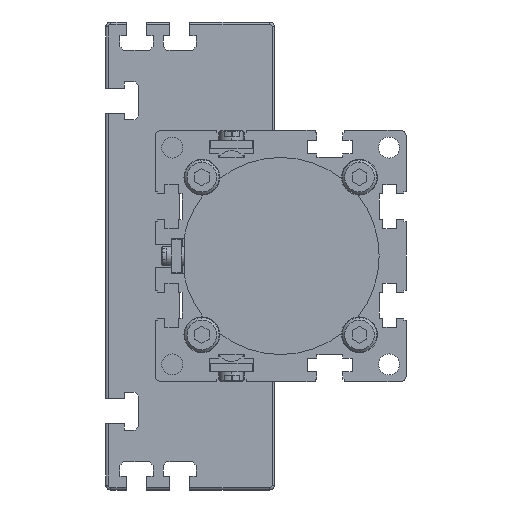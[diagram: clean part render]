
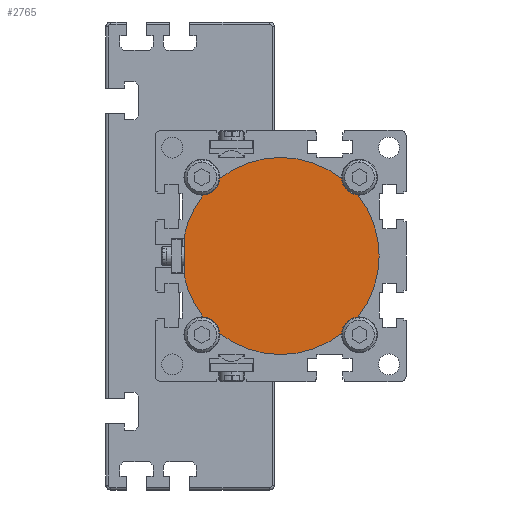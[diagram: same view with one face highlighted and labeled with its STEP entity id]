
A CAD part, left-side view. The second image highlights one B-rep face of the part: STEP entity #2765.
In plain terms, the highlighted planar face has unit normal (-1, 0, 0) as drawn and (1, 0, 0) by its records, which use the part's own axes.
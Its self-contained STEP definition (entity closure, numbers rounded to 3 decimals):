
#273 = CIRCLE ( 'NONE', #13367, 7.25 ) ;
#578 = DIRECTION ( 'NONE',  ( 0., 0., -1. ) ) ;
#650 = VERTEX_POINT ( 'NONE', #8658 ) ;
#839 = AXIS2_PLACEMENT_3D ( 'NONE', #6571, #23521, #9009 ) ;
#944 = EDGE_CURVE ( 'NONE', #3483, #17240, #27229, .T. ) ;
#1182 = DIRECTION ( 'NONE',  ( 0., 0., -1. ) ) ;
#1319 = VERTEX_POINT ( 'NONE', #22869 ) ;
#1420 = LINE ( 'NONE', #29598, #26460 ) ;
#1443 = ORIENTED_EDGE ( 'NONE', *, *, #27057, .T. ) ;
#1707 = CARTESIAN_POINT ( 'NONE',  ( 1., 0., 0. ) ) ;
#1954 = CARTESIAN_POINT ( 'NONE',  ( 1., -32., 32. ) ) ;
#2393 = EDGE_CURVE ( 'NONE', #22933, #1319, #2466, .T. ) ;
#2466 = CIRCLE ( 'NONE', #9801, 40. ) ;
#2765 = ADVANCED_FACE ( 'NONE', ( #23297 ), #10213, .T. ) ;
#3483 = VERTEX_POINT ( 'NONE', #21658 ) ;
#4201 = CARTESIAN_POINT ( 'NONE',  ( 1., 31.404, 24.775 ) ) ;
#4318 = DIRECTION ( 'NONE',  ( 0., 0., -1. ) ) ;
#4421 = DIRECTION ( 'NONE',  ( 0., 0., -1. ) ) ;
#4719 = AXIS2_PLACEMENT_3D ( 'NONE', #1707, #30752, #16700 ) ;
#5562 = CARTESIAN_POINT ( 'NONE',  ( 1., 39., -7.25 ) ) ;
#5662 = VERTEX_POINT ( 'NONE', #27048 ) ;
#5719 = CIRCLE ( 'NONE', #13713, 40. ) ;
#5746 = DIRECTION ( 'NONE',  ( 1., 0., 0. ) ) ;
#6196 = CARTESIAN_POINT ( 'NONE',  ( 1., 39.337, -7.25 ) ) ;
#6324 = VECTOR ( 'NONE', #578, 1000. ) ;
#6571 = CARTESIAN_POINT ( 'NONE',  ( 1., 32., -32. ) ) ;
#6630 = VECTOR ( 'NONE', #10153, 1000. ) ;
#6747 = VERTEX_POINT ( 'NONE', #4201 ) ;
#7125 = DIRECTION ( 'NONE',  ( 1., 0., 0. ) ) ;
#7237 = AXIS2_PLACEMENT_3D ( 'NONE', #10127, #27097, #12573 ) ;
#7377 = LINE ( 'NONE', #12608, #6630 ) ;
#7779 = CARTESIAN_POINT ( 'NONE',  ( 1., -0.331, -87.778 ) ) ;
#7879 = DIRECTION ( 'NONE',  ( 1., 0., 0. ) ) ;
#8129 = CARTESIAN_POINT ( 'NONE',  ( 1., -32., -32. ) ) ;
#8658 = CARTESIAN_POINT ( 'NONE',  ( 1., 24.775, 31.404 ) ) ;
#8706 = EDGE_CURVE ( 'NONE', #21732, #31338, #11996, .T. ) ;
#9009 = DIRECTION ( 'NONE',  ( 0., 0., -1. ) ) ;
#9801 = AXIS2_PLACEMENT_3D ( 'NONE', #30182, #21248, #4318 ) ;
#9978 = VERTEX_POINT ( 'NONE', #6196 ) ;
#10127 = CARTESIAN_POINT ( 'NONE',  ( 1., 0., 0. ) ) ;
#10153 = DIRECTION ( 'NONE',  ( 0., -1., 0. ) ) ;
#10213 = PLANE ( 'NONE',  #27095 ) ;
#10327 = ORIENTED_EDGE ( 'NONE', *, *, #2393, .T. ) ;
#10370 = CIRCLE ( 'NONE', #21607, 7.25 ) ;
#10542 = DIRECTION ( 'NONE',  ( 0., 0., -1. ) ) ;
#11207 = CIRCLE ( 'NONE', #19003, 40. ) ;
#11365 = EDGE_CURVE ( 'NONE', #9978, #31338, #7377, .T. ) ;
#11996 = LINE ( 'NONE', #15090, #6324 ) ;
#12089 = EDGE_CURVE ( 'NONE', #22933, #18315, #10370, .T. ) ;
#12185 = ORIENTED_EDGE ( 'NONE', *, *, #21007, .F. ) ;
#12573 = DIRECTION ( 'NONE',  ( 0., 0., -1. ) ) ;
#12591 = CIRCLE ( 'NONE', #839, 7.25 ) ;
#12608 = CARTESIAN_POINT ( 'NONE',  ( 1., -0.331, -7.25 ) ) ;
#13228 = ORIENTED_EDGE ( 'NONE', *, *, #12089, .F. ) ;
#13331 = CIRCLE ( 'NONE', #7237, 40. ) ;
#13367 = AXIS2_PLACEMENT_3D ( 'NONE', #21628, #7125, #24094 ) ;
#13394 = EDGE_CURVE ( 'NONE', #31216, #9978, #5719, .T. ) ;
#13713 = AXIS2_PLACEMENT_3D ( 'NONE', #28313, #13782, #30742 ) ;
#13782 = DIRECTION ( 'NONE',  ( 1., 0., 0. ) ) ;
#14174 = CARTESIAN_POINT ( 'NONE',  ( 1., -24.775, 31.404 ) ) ;
#14335 = CARTESIAN_POINT ( 'NONE',  ( 1., 24.775, -31.404 ) ) ;
#14780 = ORIENTED_EDGE ( 'NONE', *, *, #20824, .F. ) ;
#14930 = ORIENTED_EDGE ( 'NONE', *, *, #8706, .F. ) ;
#15090 = CARTESIAN_POINT ( 'NONE',  ( 1., 39., -87.778 ) ) ;
#15703 = DIRECTION ( 'NONE',  ( 1., 0., 0. ) ) ;
#16434 = ORIENTED_EDGE ( 'NONE', *, *, #31256, .T. ) ;
#16700 = DIRECTION ( 'NONE',  ( 0., 0., -1. ) ) ;
#17240 = VERTEX_POINT ( 'NONE', #14335 ) ;
#17932 = AXIS2_PLACEMENT_3D ( 'NONE', #8129, #25078, #10542 ) ;
#18315 = VERTEX_POINT ( 'NONE', #14174 ) ;
#18932 = DIRECTION ( 'NONE',  ( 1., 0., 0. ) ) ;
#19003 = AXIS2_PLACEMENT_3D ( 'NONE', #20285, #5746, #22704 ) ;
#20285 = CARTESIAN_POINT ( 'NONE',  ( 1., 0., 0. ) ) ;
#20824 = EDGE_CURVE ( 'NONE', #650, #6747, #273, .T. ) ;
#21007 = EDGE_CURVE ( 'NONE', #30686, #21732, #1420, .T. ) ;
#21248 = DIRECTION ( 'NONE',  ( 1., 0., 0. ) ) ;
#21540 = CARTESIAN_POINT ( 'NONE',  ( 1., -31.404, 24.775 ) ) ;
#21607 = AXIS2_PLACEMENT_3D ( 'NONE', #1954, #18932, #4421 ) ;
#21628 = CARTESIAN_POINT ( 'NONE',  ( 1., 32., 32. ) ) ;
#21658 = CARTESIAN_POINT ( 'NONE',  ( 1., -24.775, -31.404 ) ) ;
#21708 = ORIENTED_EDGE ( 'NONE', *, *, #24705, .F. ) ;
#21732 = VERTEX_POINT ( 'NONE', #29800 ) ;
#21803 = CIRCLE ( 'NONE', #23873, 40. ) ;
#21974 = CARTESIAN_POINT ( 'NONE',  ( 1., 31.404, -24.775 ) ) ;
#22256 = ORIENTED_EDGE ( 'NONE', *, *, #23430, .F. ) ;
#22365 = DIRECTION ( 'NONE',  ( 0., -1., 0. ) ) ;
#22393 = DIRECTION ( 'NONE',  ( 0., 0., -1. ) ) ;
#22704 = DIRECTION ( 'NONE',  ( 0., 0., -1. ) ) ;
#22869 = CARTESIAN_POINT ( 'NONE',  ( 1., -31.404, -24.775 ) ) ;
#22933 = VERTEX_POINT ( 'NONE', #21540 ) ;
#23297 = FACE_OUTER_BOUND ( 'NONE', #23885, .T. ) ;
#23430 = EDGE_CURVE ( 'NONE', #31216, #17240, #12591, .T. ) ;
#23521 = DIRECTION ( 'NONE',  ( 1., 0., 0. ) ) ;
#23873 = AXIS2_PLACEMENT_3D ( 'NONE', #30235, #15703, #1182 ) ;
#23885 = EDGE_LOOP ( 'NONE', ( #21708, #31421, #22256, #27338, #25914, #14930, #12185, #1443, #14780, #25270, #16434, #13228, #10327 ) ) ;
#24094 = DIRECTION ( 'NONE',  ( 0., 0., -1. ) ) ;
#24705 = EDGE_CURVE ( 'NONE', #3483, #1319, #29228, .T. ) ;
#25078 = DIRECTION ( 'NONE',  ( 1., 0., 0. ) ) ;
#25270 = ORIENTED_EDGE ( 'NONE', *, *, #26979, .T. ) ;
#25914 = ORIENTED_EDGE ( 'NONE', *, *, #11365, .T. ) ;
#26460 = VECTOR ( 'NONE', #22365, 1000. ) ;
#26979 = EDGE_CURVE ( 'NONE', #650, #5662, #11207, .T. ) ;
#27048 = CARTESIAN_POINT ( 'NONE',  ( 1., 0., 40. ) ) ;
#27057 = EDGE_CURVE ( 'NONE', #30686, #6747, #21803, .T. ) ;
#27095 = AXIS2_PLACEMENT_3D ( 'NONE', #7779, #7879, #22393 ) ;
#27097 = DIRECTION ( 'NONE',  ( 1., 0., 0. ) ) ;
#27229 = CIRCLE ( 'NONE', #4719, 40. ) ;
#27338 = ORIENTED_EDGE ( 'NONE', *, *, #13394, .T. ) ;
#27394 = CARTESIAN_POINT ( 'NONE',  ( 1., 39.337, 7.25 ) ) ;
#28313 = CARTESIAN_POINT ( 'NONE',  ( 1., 0., 0. ) ) ;
#29228 = CIRCLE ( 'NONE', #17932, 7.25 ) ;
#29598 = CARTESIAN_POINT ( 'NONE',  ( 1., -0.331, 7.25 ) ) ;
#29800 = CARTESIAN_POINT ( 'NONE',  ( 1., 39., 7.25 ) ) ;
#30182 = CARTESIAN_POINT ( 'NONE',  ( 1., 0., 0. ) ) ;
#30235 = CARTESIAN_POINT ( 'NONE',  ( 1., 0., 0. ) ) ;
#30686 = VERTEX_POINT ( 'NONE', #27394 ) ;
#30742 = DIRECTION ( 'NONE',  ( 0., 0., -1. ) ) ;
#30752 = DIRECTION ( 'NONE',  ( 1., 0., 0. ) ) ;
#31216 = VERTEX_POINT ( 'NONE', #21974 ) ;
#31256 = EDGE_CURVE ( 'NONE', #5662, #18315, #13331, .T. ) ;
#31338 = VERTEX_POINT ( 'NONE', #5562 ) ;
#31421 = ORIENTED_EDGE ( 'NONE', *, *, #944, .T. ) ;
